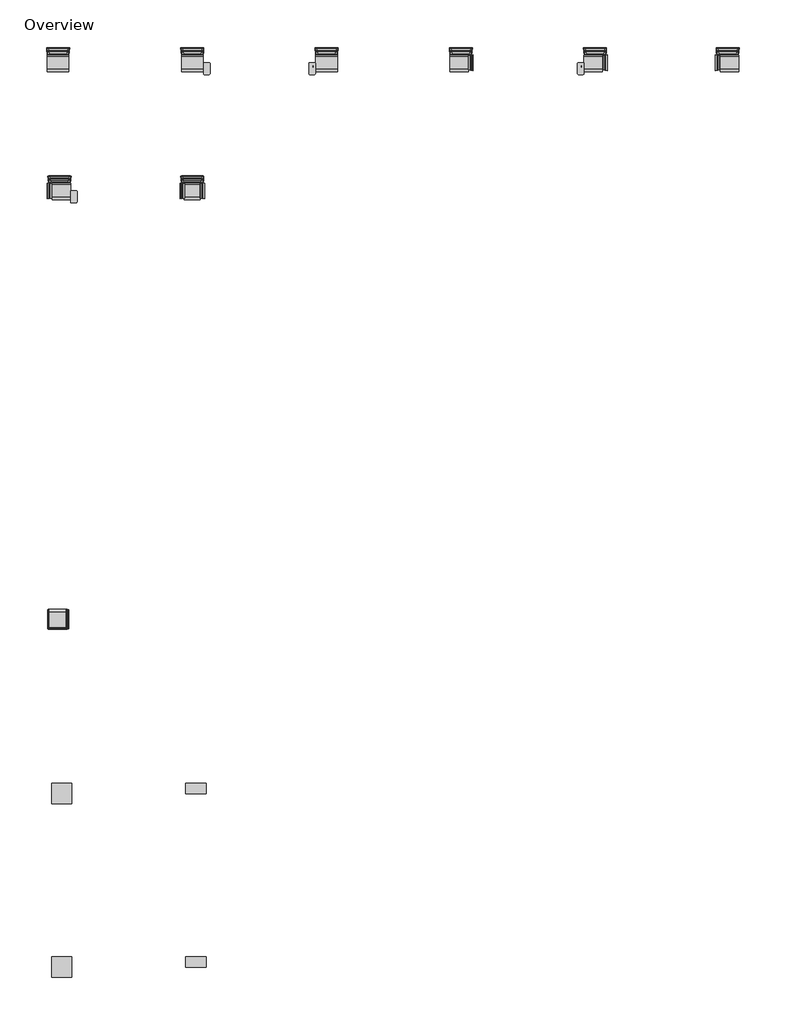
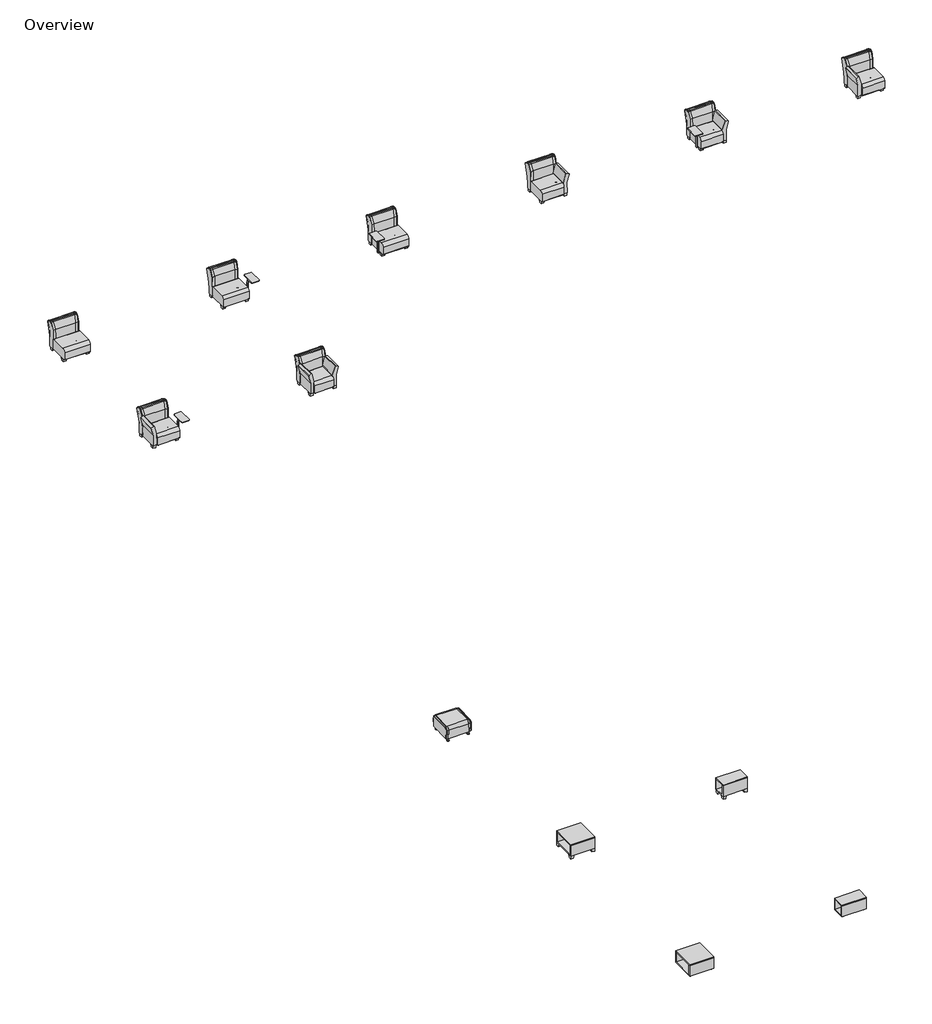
# One storey, incomplete: 13 furniture elements.
"""IFC4 building model written with IfcOpenShell, lengths in millimetres."""

from ifc_helpers import new_model, si_unit, origin, place, context, project, spatial, transform, mapped, element, save
from components import armless_b418ea1e, armless_185a511e, armless_left_tablet_arm_b0379768, armless_left_tablet_arm_3aba9abf, armless_right_tablet_arm_0e31e1d0, armless_right_tablet_arm_03405101, coffee_516a3fa5, coffee_0a8c5b1f, end_708bf382, end_8f266089, left_arm_a03b13e4, left_arm_right_tablet_arm_7bc5a1d5, left_arm_right_tablet_arm_aeaf191a, ottoman_c342d5f9, ottoman_80099246, right_arm_36111af0, right_arm_f7dc56e4, right_arm_left_tablet_arm_bb9a4e96, right_arm_left_tablet_arm_c27d1c7f, two_arm_6be0adb5

model = new_model("IFC4")

# Units and contexts
model_context = context("Model", 3, world=origin())
ifc_project = project(units=[si_unit("LENGTHUNIT", "METRE", prefix="MILLI")], contexts=[model_context])

# Site, building, storey
site = spatial("IfcSite", under=ifc_project)
building = spatial("IfcBuilding", under=site)
storey = spatial("IfcBuildingStorey", under=building, Name="Overview", Elevation=0.0)

# Furniture
placement = place(None, origin())
armless_shape = armless_b418ea1e(model_context)
armless_2_shape = armless_185a511e(model_context)
element("IfcFurniture", 1, ObjectType="Steelcase Turnstone - Jenny - Seating - Lounge Chair : Armless", at=placement, inside=storey, context=model_context, shape_type="MappedRepresentation", body=[
    mapped(armless_shape, transform((-16884.6418006, -12034.9052473, 0.0), x_axis=(1.0, 0.0, 0.0), y_axis=(0.0, 1.0, 0.0), z_axis=(0.0, 0.0, 1.0))),
    mapped(armless_2_shape, transform((-16884.6418006, -12034.9052473, 0.0), x_axis=(1.0, 0.0, 0.0), y_axis=(0.0, 1.0, 0.0), z_axis=(0.0, 0.0, 1.0))),
])
armless_left_tablet_arm_shape = armless_left_tablet_arm_b0379768(model_context)
armless_left_tablet_arm_2_shape = armless_left_tablet_arm_3aba9abf(model_context)
element("IfcFurniture", 2, ObjectType="Steelcase Turnstone - Jenny - Seating - Lounge Chair : Armless/Left Tablet Arm", at=placement, inside=storey, context=model_context, shape_type="MappedRepresentation", body=[
    mapped(armless_left_tablet_arm_shape, transform((-12465.0418006, -12034.9052473, 0.0), x_axis=(1.0, 0.0, 0.0), y_axis=(0.0, 1.0, 0.0), z_axis=(0.0, 0.0, 1.0))),
    mapped(armless_left_tablet_arm_2_shape, transform((-12465.0418006, -12034.9052473, 0.0), x_axis=(1.0, 0.0, 0.0), y_axis=(0.0, 1.0, 0.0), z_axis=(0.0, 0.0, 1.0))),
])
armless_right_tablet_arm_shape = armless_right_tablet_arm_0e31e1d0(model_context)
armless_right_tablet_arm_2_shape = armless_right_tablet_arm_03405101(model_context)
element("IfcFurniture", 3, ObjectType="Steelcase Turnstone - Jenny - Seating - Lounge Chair : Armless/Right Tablet Arm", at=placement, inside=storey, context=model_context, shape_type="MappedRepresentation", body=[
    mapped(armless_right_tablet_arm_shape, transform((-8045.4418006, -12034.9052473, 0.0), x_axis=(1.0, 0.0, 0.0), y_axis=(0.0, 1.0, 0.0), z_axis=(0.0, 0.0, 1.0))),
    mapped(armless_right_tablet_arm_2_shape, transform((-8045.4418006, -12034.9052473, 0.0), x_axis=(1.0, 0.0, 0.0), y_axis=(0.0, 1.0, 0.0), z_axis=(0.0, 0.0, 1.0))),
])
coffee_shape = coffee_516a3fa5(model_context)
element("IfcFurniture", 4, ObjectType="Steelcase Turnstone - Jenny - Table - Occasional - Low Feet : Coffee", at=placement, inside=storey, context=model_context, shape_type="MappedRepresentation", body=[
    mapped(coffee_shape, transform((-17101.3248936, -41165.3698986, 0.0), x_axis=(1.0, 0.0, 0.0), y_axis=(0.0, 1.0, 0.0), z_axis=(0.0, 0.0, 1.0))),
])
coffee_2_shape = coffee_0a8c5b1f(model_context)
element("IfcFurniture", 5, ObjectType="Steelcase Turnstone - Jenny - Table - Occasional : Coffee", at=placement, inside=storey, context=model_context, shape_type="MappedRepresentation", body=[
    mapped(coffee_2_shape, transform((-17101.3248936, -35450.3698986, 0.0), x_axis=(1.0, 0.0, 0.0), y_axis=(0.0, 1.0, 0.0), z_axis=(0.0, 0.0, 1.0))),
])
end_shape = end_708bf382(model_context)
element("IfcFurniture", 6, ObjectType="Steelcase Turnstone - Jenny - Table - Occasional - Low Feet : End", at=placement, inside=storey, context=model_context, shape_type="MappedRepresentation", body=[
    mapped(end_shape, transform((-12681.7248936, -41165.3698986, 0.0), x_axis=(1.0, 0.0, 0.0), y_axis=(0.0, 1.0, 0.0), z_axis=(0.0, 0.0, 1.0))),
])
end_2_shape = end_8f266089(model_context)
element("IfcFurniture", 7, ObjectType="Steelcase Turnstone - Jenny - Table - Occasional : End", at=placement, inside=storey, context=model_context, shape_type="MappedRepresentation", body=[
    mapped(end_2_shape, transform((-12681.7248936, -35450.3698986, 0.0), x_axis=(1.0, 0.0, 0.0), y_axis=(0.0, 1.0, 0.0), z_axis=(0.0, 0.0, 1.0))),
])
left_arm_shape = left_arm_a03b13e4(model_context)
element("IfcFurniture", 8, ObjectType="Steelcase Turnstone - Jenny - Seating - Lounge Chair : Left Arm", at=placement, inside=storey, context=model_context, shape_type="MappedRepresentation", body=[
    mapped(armless_shape, transform((-3625.8418006, -12034.9052473, 0.0), x_axis=(1.0, 0.0, 0.0), y_axis=(0.0, 1.0, 0.0), z_axis=(0.0, 0.0, 1.0))),
    mapped(left_arm_shape, transform((-3625.8418006, -12034.9052473, 0.0), x_axis=(1.0, 0.0, 0.0), y_axis=(0.0, 1.0, 0.0), z_axis=(0.0, 0.0, 1.0))),
])
left_arm_right_tablet_arm_shape = left_arm_right_tablet_arm_7bc5a1d5(model_context)
left_arm_right_tablet_arm_2_shape = left_arm_right_tablet_arm_aeaf191a(model_context)
element("IfcFurniture", 9, ObjectType="Steelcase Turnstone - Jenny - Seating - Lounge Chair : Left Arm/Right Tablet Arm", at=placement, inside=storey, context=model_context, shape_type="MappedRepresentation", body=[
    mapped(left_arm_right_tablet_arm_shape, transform((793.7581994, -12034.9052473, 0.0), x_axis=(1.0, 0.0, 0.0), y_axis=(0.0, 1.0, 0.0), z_axis=(0.0, 0.0, 1.0))),
    mapped(left_arm_right_tablet_arm_2_shape, transform((793.7581994, -12034.9052473, 0.0), x_axis=(1.0, 0.0, 0.0), y_axis=(0.0, 1.0, 0.0), z_axis=(0.0, 0.0, 1.0))),
])
ottoman_shape = ottoman_c342d5f9(model_context)
ottoman_2_shape = ottoman_80099246(model_context)
element("IfcFurniture", 10, ObjectType="Steelcase Turnstone - Jenny - Seating - Ottoman : Ottoman", at=placement, inside=storey, context=model_context, shape_type="MappedRepresentation", body=[
    mapped(ottoman_shape, transform((-16884.6418006, -29706.9324441, 0.0), x_axis=(1.0, 0.0, 0.0), y_axis=(0.0, 1.0, 0.0), z_axis=(0.0, 0.0, 1.0))),
    mapped(ottoman_2_shape, transform((-16884.6418006, -29706.9324441, 0.0), x_axis=(1.0, 0.0, 0.0), y_axis=(0.0, 1.0, 0.0), z_axis=(0.0, 0.0, 1.0))),
])
right_arm_shape = right_arm_36111af0(model_context)
right_arm_2_shape = right_arm_f7dc56e4(model_context)
element("IfcFurniture", 11, ObjectType="Steelcase Turnstone - Jenny - Seating - Lounge Chair : Right Arm", at=placement, inside=storey, context=model_context, shape_type="MappedRepresentation", body=[
    mapped(right_arm_shape, transform((5111.7581994, -12034.9052473, 0.0), x_axis=(1.0, 0.0, 0.0), y_axis=(0.0, 1.0, 0.0), z_axis=(0.0, 0.0, 1.0))),
    mapped(right_arm_2_shape, transform((5111.7581994, -12034.9052473, 0.0), x_axis=(1.0, 0.0, 0.0), y_axis=(0.0, 1.0, 0.0), z_axis=(0.0, 0.0, 1.0))),
])
right_arm_left_tablet_arm_shape = right_arm_left_tablet_arm_bb9a4e96(model_context)
right_arm_left_tablet_arm_2_shape = right_arm_left_tablet_arm_c27d1c7f(model_context)
element("IfcFurniture", 12, ObjectType="Steelcase Turnstone - Jenny - Seating - Lounge Chair : Right Arm/Left Tablet Arm", at=placement, inside=storey, context=model_context, shape_type="MappedRepresentation", body=[
    mapped(right_arm_left_tablet_arm_shape, transform((-16884.6418006, -16251.3052473, 0.0), x_axis=(1.0, 0.0, 0.0), y_axis=(0.0, 1.0, 0.0), z_axis=(0.0, 0.0, 1.0))),
    mapped(right_arm_left_tablet_arm_2_shape, transform((-16884.6418006, -16251.3052473, 0.0), x_axis=(1.0, 0.0, 0.0), y_axis=(0.0, 1.0, 0.0), z_axis=(0.0, 0.0, 1.0))),
])
two_arm_shape = two_arm_6be0adb5(model_context)
element("IfcFurniture", 13, ObjectType="Steelcase Turnstone - Jenny - Seating - Lounge Chair : Two Arm", at=placement, inside=storey, context=model_context, shape_type="MappedRepresentation", body=[
    mapped(armless_shape, transform((-12465.0418006, -16251.3052473, 0.0), x_axis=(1.0, 0.0, 0.0), y_axis=(0.0, 1.0, 0.0), z_axis=(0.0, 0.0, 1.0))),
    mapped(two_arm_shape, transform((-12465.0418006, -16251.3052473, 0.0), x_axis=(1.0, 0.0, 0.0), y_axis=(0.0, 1.0, 0.0), z_axis=(0.0, 0.0, 1.0))),
])

save(model, "model.ifc")
